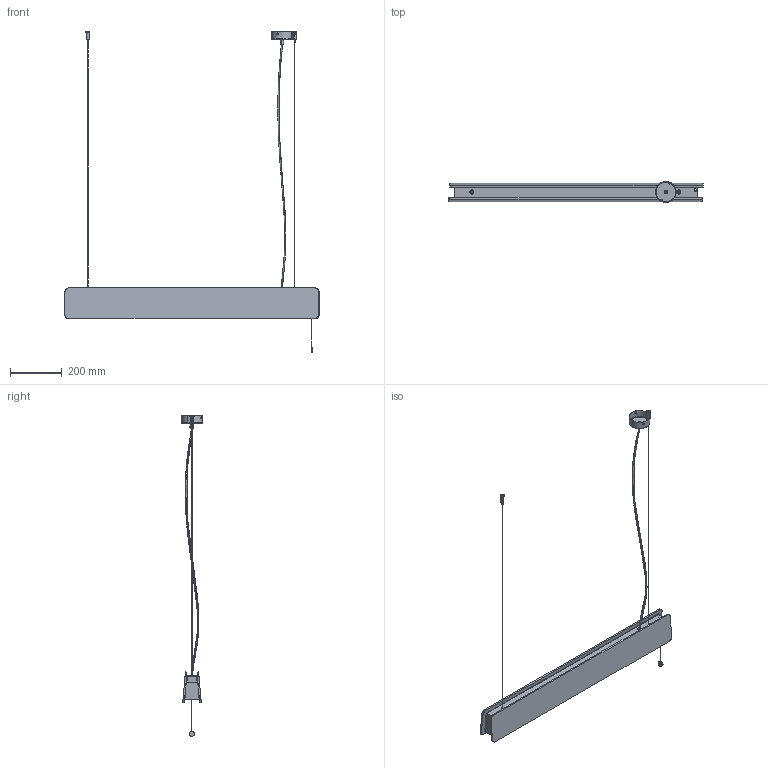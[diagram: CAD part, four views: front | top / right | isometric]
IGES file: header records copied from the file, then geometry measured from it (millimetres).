
Start section: SolidWorks IGES file using NURBS representation for surfaces
Global section: file name: Z:\Modele 3D_WWW\_KOLEKCJE_WWW\OSLO\OSLO-LED-90-ZWIS-7522-7520\OSLO-LED-90-ZWIS-7522-7520.IGS; native system: SolidWorks 2021; preprocessor: SolidWorks 2021; author: gabriela.tworek; date: 211001.142348; units: millimetre
Bounding box: 982.6 x 80 x 1239.28 mm (x, y, z)
Surface area: 1228619.3 mm2 (no closed solid volume)
Topology: 0 solids, 0 shells, 2395 faces, 23112 edges, 23096 vertices
Faces by surface type: bspline 2395
